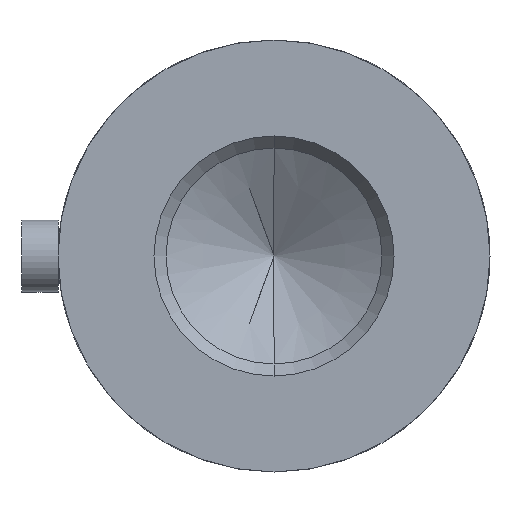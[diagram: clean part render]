
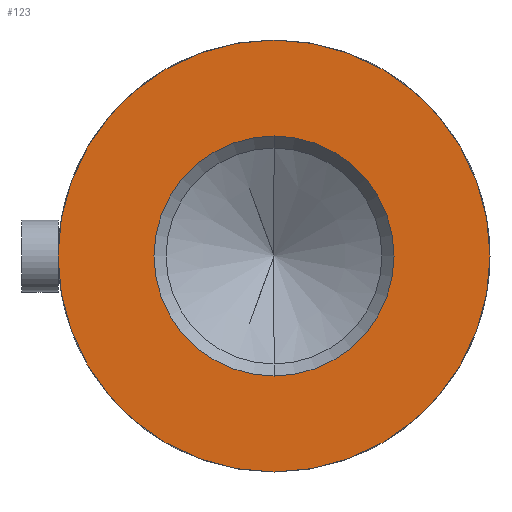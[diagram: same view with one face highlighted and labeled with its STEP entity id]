
A CAD part, front view. The second image highlights one B-rep face of the part: STEP entity #123.
In plain terms, the highlighted planar face has unit normal (0, -1, 0).
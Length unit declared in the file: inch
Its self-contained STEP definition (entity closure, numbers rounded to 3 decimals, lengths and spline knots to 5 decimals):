
#20 = VERTEX_POINT ( 'NONE', #69 ) ;
#47 = VERTEX_POINT ( 'NONE', #94 ) ;
#61 = VERTEX_POINT ( 'NONE', #112 ) ;
#69 = CARTESIAN_POINT ( 'NONE',  ( 0., 0., 0.75 ) ) ;
#83 = VERTEX_POINT ( 'NONE', #107 ) ;
#94 = CARTESIAN_POINT ( 'NONE',  ( 0., 0., -0.75 ) ) ;
#107 = CARTESIAN_POINT ( 'NONE',  ( 0., 0., -0.4167 ) ) ;
#112 = CARTESIAN_POINT ( 'NONE',  ( 0., 0., 0.4167 ) ) ;
#123 = ADVANCED_FACE ( 'NONE', ( #648, #650 ), #349, .F. ) ;
#158 = EDGE_CURVE ( 'NONE', #47, #20, #746, .T. ) ;
#159 = EDGE_CURVE ( 'NONE', #83, #61, #759, .T. ) ;
#171 = EDGE_CURVE ( 'NONE', #61, #83, #762, .T. ) ;
#183 = AXIS2_PLACEMENT_3D ( 'NONE', #334, #339, #340 ) ;
#243 = DIRECTION ( 'NONE',  ( 0., 1., 0. ) ) ;
#244 = DIRECTION ( 'NONE',  ( 0., 0., 1. ) ) ;
#276 = CARTESIAN_POINT ( 'NONE',  ( 0., 0., 0. ) ) ;
#334 = CARTESIAN_POINT ( 'NONE',  ( 0., 0., 0. ) ) ;
#339 = DIRECTION ( 'NONE',  ( 0., 1., 0. ) ) ;
#340 = DIRECTION ( 'NONE',  ( 0., 0., 1. ) ) ;
#349 = PLANE ( 'NONE',  #183 ) ;
#435 = CARTESIAN_POINT ( 'NONE',  ( 0., 0., 0. ) ) ;
#437 = DIRECTION ( 'NONE',  ( 0., 1., 0. ) ) ;
#455 = DIRECTION ( 'NONE',  ( 0., 0., 1. ) ) ;
#458 = DIRECTION ( 'NONE',  ( 0., 0., -1. ) ) ;
#460 = CARTESIAN_POINT ( 'NONE',  ( 0., 0., 0. ) ) ;
#464 = DIRECTION ( 'NONE',  ( 0., -1., 0. ) ) ;
#478 = CARTESIAN_POINT ( 'NONE',  ( 0., 0., 0. ) ) ;
#488 = DIRECTION ( 'NONE',  ( 0., -1., 0. ) ) ;
#490 = DIRECTION ( 'NONE',  ( 0., 0., -1. ) ) ;
#526 = EDGE_LOOP ( 'NONE', ( #666, #694 ) ) ;
#554 = EDGE_LOOP ( 'NONE', ( #684, #656 ) ) ;
#648 = FACE_BOUND ( 'NONE', #526, .T. ) ;
#650 = FACE_OUTER_BOUND ( 'NONE', #554, .T. ) ;
#656 = ORIENTED_EDGE ( 'NONE', *, *, #907, .F. ) ;
#666 = ORIENTED_EDGE ( 'NONE', *, *, #159, .F. ) ;
#684 = ORIENTED_EDGE ( 'NONE', *, *, #158, .F. ) ;
#694 = ORIENTED_EDGE ( 'NONE', *, *, #171, .F. ) ;
#746 = CIRCLE ( 'NONE', #877, 0.75 ) ;
#759 = CIRCLE ( 'NONE', #865, 0.4167 ) ;
#762 = CIRCLE ( 'NONE', #889, 0.4167 ) ;
#806 = CIRCLE ( 'NONE', #879, 0.75 ) ;
#865 = AXIS2_PLACEMENT_3D ( 'NONE', #460, #464, #458 ) ;
#877 = AXIS2_PLACEMENT_3D ( 'NONE', #435, #437, #455 ) ;
#879 = AXIS2_PLACEMENT_3D ( 'NONE', #276, #243, #244 ) ;
#889 = AXIS2_PLACEMENT_3D ( 'NONE', #478, #488, #490 ) ;
#907 = EDGE_CURVE ( 'NONE', #20, #47, #806, .T. ) ;
